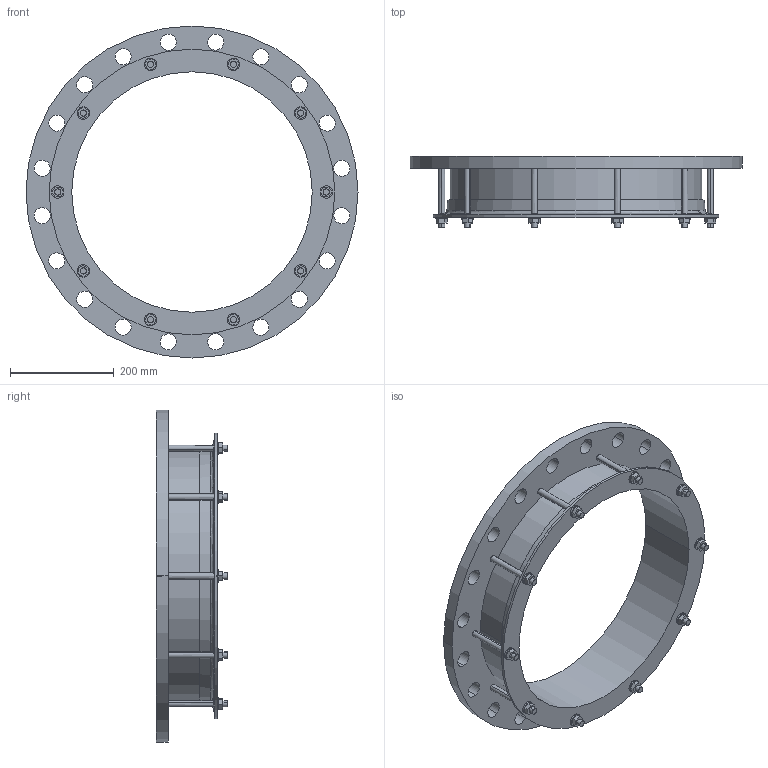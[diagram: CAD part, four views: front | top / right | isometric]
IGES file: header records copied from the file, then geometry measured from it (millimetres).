
Start section:  PTC IGES file: 460x450pn16.igs
Global section: file name: 460x450pn16.igs; native system: Creo Parametric by PTC Inc.; preprocessor: 2016130; author: mfairey; organization: Unknown; date: 20190116.111401; units: millimetre
Bounding box: 640 x 137.45 x 640 mm (x, y, z)
Surface area: 821652 mm2 (no closed solid volume)
Topology: 0 solids, 0 shells, 208 faces, 1096 edges, 1096 vertices
Faces by surface type: revolution 114, bspline 94
